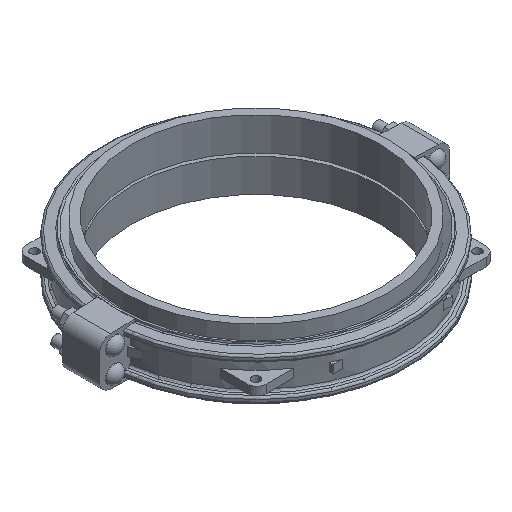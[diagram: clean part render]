
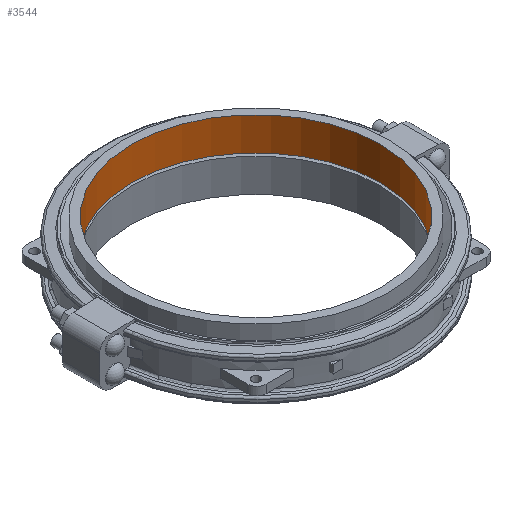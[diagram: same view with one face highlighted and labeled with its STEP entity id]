
A CAD part, isometric view. The second image highlights one B-rep face of the part: STEP entity #3544.
In plain terms, the highlighted cylindrical face has radius 381 mm (diameter 762 mm), a full revolution.
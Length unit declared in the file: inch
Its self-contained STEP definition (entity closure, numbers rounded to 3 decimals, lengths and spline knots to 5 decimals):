
#158=CYLINDRICAL_SURFACE('',#3979,15.);
#382=FACE_OUTER_BOUND('',#606,.T.);
#606=EDGE_LOOP('',(#3060,#3061,#3062,#3063,#3064,#3065));
#865=LINE('',#6479,#1122);
#1122=VECTOR('',#4960,15.);
#1291=CIRCLE('',#3977,15.);
#1292=CIRCLE('',#3978,15.);
#1293=CIRCLE('',#3980,15.);
#1294=CIRCLE('',#3981,15.);
#1623=VERTEX_POINT('',#6473);
#1624=VERTEX_POINT('',#6474);
#1625=VERTEX_POINT('',#6478);
#1626=VERTEX_POINT('',#6480);
#2103=EDGE_CURVE('',#1623,#1624,#1291,.T.);
#2104=EDGE_CURVE('',#1624,#1623,#1292,.T.);
#2105=EDGE_CURVE('',#1624,#1625,#865,.T.);
#2106=EDGE_CURVE('',#1626,#1625,#1293,.T.);
#2107=EDGE_CURVE('',#1625,#1626,#1294,.T.);
#3060=ORIENTED_EDGE('',*,*,#2103,.T.);
#3061=ORIENTED_EDGE('',*,*,#2105,.T.);
#3062=ORIENTED_EDGE('',*,*,#2106,.F.);
#3063=ORIENTED_EDGE('',*,*,#2107,.F.);
#3064=ORIENTED_EDGE('',*,*,#2105,.F.);
#3065=ORIENTED_EDGE('',*,*,#2104,.T.);
#3544=ADVANCED_FACE('',(#382),#158,.F.);
#3977=AXIS2_PLACEMENT_3D('',#6475,#4954,#4955);
#3978=AXIS2_PLACEMENT_3D('',#6476,#4956,#4957);
#3979=AXIS2_PLACEMENT_3D('',#6477,#4958,#4959);
#3980=AXIS2_PLACEMENT_3D('',#6481,#4961,#4962);
#3981=AXIS2_PLACEMENT_3D('',#6482,#4963,#4964);
#4954=DIRECTION('center_axis',(0.,0.,-1.));
#4955=DIRECTION('ref_axis',(1.,0.,0.));
#4956=DIRECTION('center_axis',(0.,0.,-1.));
#4957=DIRECTION('ref_axis',(1.,0.,0.));
#4958=DIRECTION('center_axis',(0.,0.,-1.));
#4959=DIRECTION('ref_axis',(0.,1.,0.));
#4960=DIRECTION('',(0.,0.,1.));
#4961=DIRECTION('center_axis',(0.,0.,-1.));
#4962=DIRECTION('ref_axis',(1.,0.,0.));
#4963=DIRECTION('center_axis',(0.,0.,-1.));
#4964=DIRECTION('ref_axis',(1.,0.,0.));
#6473=CARTESIAN_POINT('',(0.,15.,0.));
#6474=CARTESIAN_POINT('',(0.,-15.,0.));
#6475=CARTESIAN_POINT('Origin',(0.,0.,0.));
#6476=CARTESIAN_POINT('Origin',(0.,0.,0.));
#6477=CARTESIAN_POINT('Origin',(0.,0.,2.));
#6478=CARTESIAN_POINT('',(0.,-15.,4.));
#6479=CARTESIAN_POINT('',(0.,-15.,2.));
#6480=CARTESIAN_POINT('',(0.,15.,4.));
#6481=CARTESIAN_POINT('Origin',(0.,0.,4.));
#6482=CARTESIAN_POINT('Origin',(0.,0.,4.));
